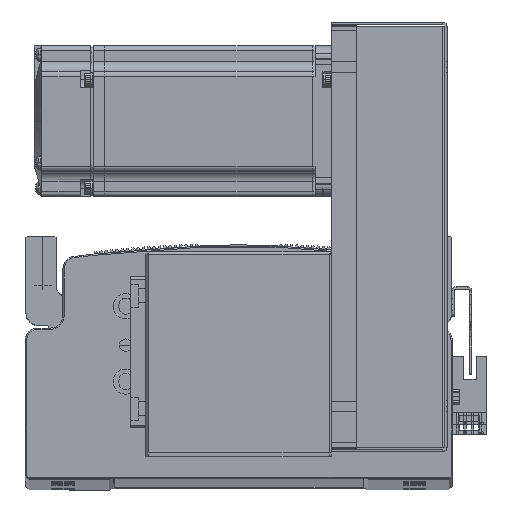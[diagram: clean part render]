
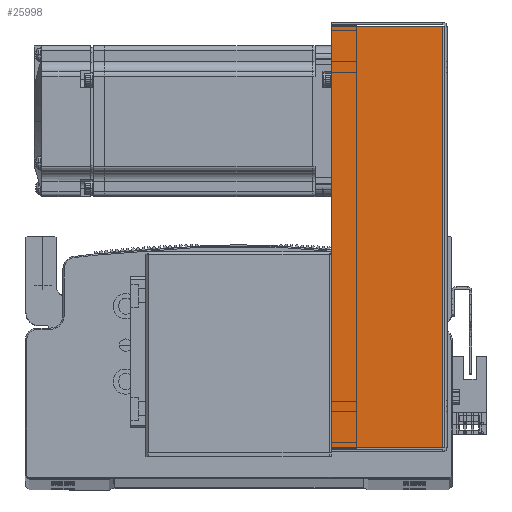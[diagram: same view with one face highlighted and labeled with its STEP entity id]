
A CAD part, top view. The second image highlights one B-rep face of the part: STEP entity #25998.
In plain terms, the highlighted planar face has unit normal (0, 0, 1).
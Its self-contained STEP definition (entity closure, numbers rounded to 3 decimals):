
#9092 = CARTESIAN_POINT ( 'NONE',  ( -83.793, 45., 40.5 ) ) ;
#9131 = CARTESIAN_POINT ( 'NONE',  ( -83.793, 0.737, 40.5 ) ) ;
#9148 = CARTESIAN_POINT ( 'NONE',  ( 83.793, 45., 40.5 ) ) ;
#9154 = CARTESIAN_POINT ( 'NONE',  ( 83.793, 0.737, 40.5 ) ) ;
#15294 = EDGE_CURVE ( 'NONE', #86373, #86405, #81472, .T. ) ;
#15325 = EDGE_CURVE ( 'NONE', #86387, #86357, #81485, .T. ) ;
#15412 = EDGE_CURVE ( 'NONE', #86387, #86373, #81586, .T. ) ;
#15470 = EDGE_CURVE ( 'NONE', #86357, #86405, #81610, .T. ) ;
#25998 = ADVANCED_FACE ( 'NONE', ( #51168 ), #43469, .F. ) ;
#43469 = PLANE ( 'NONE',  #84992 ) ;
#43479 = DIRECTION ( 'NONE',  ( 0., 0., -1. ) ) ;
#43502 = CARTESIAN_POINT ( 'NONE',  ( 0., 0., 40.5 ) ) ;
#43503 = DIRECTION ( 'NONE',  ( -1., 0., 0. ) ) ;
#51168 = FACE_OUTER_BOUND ( 'NONE', #80699, .T. ) ;
#77183 = ORIENTED_EDGE ( 'NONE', *, *, #15294, .F. ) ;
#77194 = ORIENTED_EDGE ( 'NONE', *, *, #15470, .T. ) ;
#77211 = ORIENTED_EDGE ( 'NONE', *, *, #15412, .F. ) ;
#77293 = ORIENTED_EDGE ( 'NONE', *, *, #15325, .T. ) ;
#80699 = EDGE_LOOP ( 'NONE', ( #77211, #77293, #77194, #77183 ) ) ;
#81423 = VECTOR ( 'NONE', #83177, 1000. ) ;
#81459 = VECTOR ( 'NONE', #83032, 1000. ) ;
#81472 = LINE ( 'NONE', #83014, #81459 ) ;
#81485 = LINE ( 'NONE', #83243, #81423 ) ;
#81574 = VECTOR ( 'NONE', #83612, 1000. ) ;
#81586 = LINE ( 'NONE', #83357, #81587 ) ;
#81587 = VECTOR ( 'NONE', #83423, 1000. ) ;
#81610 = LINE ( 'NONE', #83576, #81574 ) ;
#83014 = CARTESIAN_POINT ( 'NONE',  ( -83.793, 0., 40.5 ) ) ;
#83032 = DIRECTION ( 'NONE',  ( 0., 1., 0. ) ) ;
#83177 = DIRECTION ( 'NONE',  ( 0., 1., 0. ) ) ;
#83243 = CARTESIAN_POINT ( 'NONE',  ( 83.793, 0., 40.5 ) ) ;
#83357 = CARTESIAN_POINT ( 'NONE',  ( 0., 0.737, 40.5 ) ) ;
#83423 = DIRECTION ( 'NONE',  ( -1., 0., 0. ) ) ;
#83576 = CARTESIAN_POINT ( 'NONE',  ( -84.5, 45., 40.5 ) ) ;
#83612 = DIRECTION ( 'NONE',  ( -1., 0., 0. ) ) ;
#84992 = AXIS2_PLACEMENT_3D ( 'NONE', #43502, #43479, #43503 ) ;
#86357 = VERTEX_POINT ( 'NONE', #9148 ) ;
#86373 = VERTEX_POINT ( 'NONE', #9131 ) ;
#86387 = VERTEX_POINT ( 'NONE', #9154 ) ;
#86405 = VERTEX_POINT ( 'NONE', #9092 ) ;
